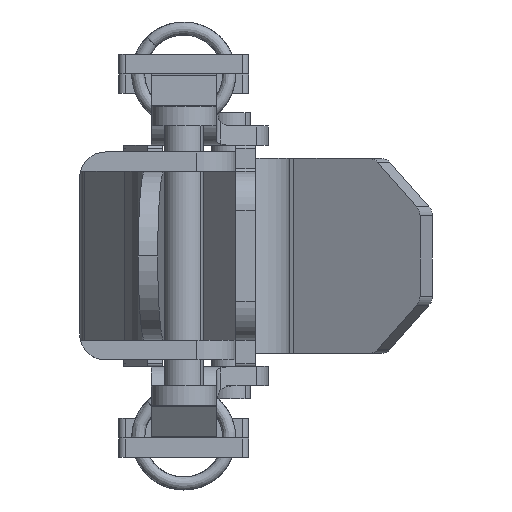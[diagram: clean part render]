
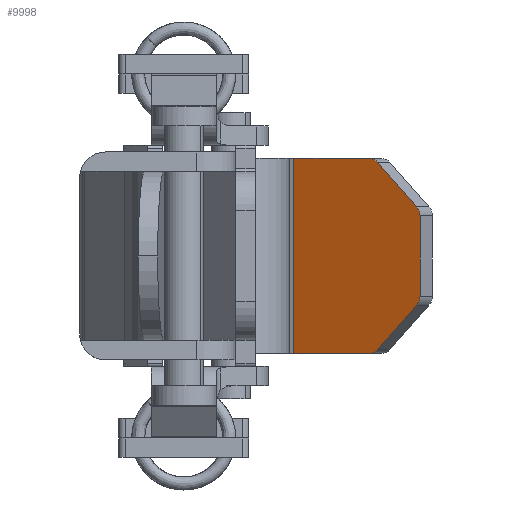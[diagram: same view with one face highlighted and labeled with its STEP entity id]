
A CAD part, left-side view. The second image highlights one B-rep face of the part: STEP entity #9998.
In plain terms, the highlighted planar face has unit normal (-0.882, 0.471, 0).
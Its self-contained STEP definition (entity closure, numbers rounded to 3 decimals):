
#60 = CARTESIAN_POINT ( 'NONE',  ( 27.735, -14.559, 4.414 ) ) ;
#171 = VERTEX_POINT ( 'NONE', #2004 ) ;
#793 = DIRECTION ( 'NONE',  ( -0.471, -0.882, 0. ) ) ;
#903 = ORIENTED_EDGE ( 'NONE', *, *, #2760, .T. ) ;
#1047 = CARTESIAN_POINT ( 'NONE',  ( 27.735, -14.559, 10.586 ) ) ;
#1204 = DIRECTION ( 'NONE',  ( 0.471, 0.882, 0. ) ) ;
#1339 = CARTESIAN_POINT ( 'NONE',  ( 32.912, -4.853, 15. ) ) ;
#1388 = DIRECTION ( 'NONE',  ( -0.882, 0.471, 0. ) ) ;
#1517 = VERTEX_POINT ( 'NONE', #2628 ) ;
#1912 = DIRECTION ( 'NONE',  ( 0.333, 0.624, 0.707 ) ) ;
#2004 = CARTESIAN_POINT ( 'NONE',  ( 27.873, -14.3, 3.707 ) ) ;
#2017 = CARTESIAN_POINT ( 'NONE',  ( 29.813, -10.664, 0. ) ) ;
#2281 = VERTEX_POINT ( 'NONE', #4116 ) ;
#2388 = ORIENTED_EDGE ( 'NONE', *, *, #2951, .T. ) ;
#2396 = DIRECTION ( 'NONE',  ( 0.471, 0.882, 0. ) ) ;
#2522 = EDGE_CURVE ( 'NONE', #4455, #11688, #8206, .T. ) ;
#2527 = VERTEX_POINT ( 'NONE', #1047 ) ;
#2628 = CARTESIAN_POINT ( 'NONE',  ( 29.48, -11.288, 0.293 ) ) ;
#2760 = EDGE_CURVE ( 'NONE', #8278, #4455, #8661, .T. ) ;
#2865 = LINE ( 'NONE', #7891, #5221 ) ;
#2933 = EDGE_CURVE ( 'NONE', #2527, #8278, #10038, .T. ) ;
#2951 = EDGE_CURVE ( 'NONE', #2281, #11033, #12058, .T. ) ;
#3979 = ORIENTED_EDGE ( 'NONE', *, *, #7849, .T. ) ;
#4116 = CARTESIAN_POINT ( 'NONE',  ( 32.912, -4.853, 15. ) ) ;
#4168 = VECTOR ( 'NONE', #10726, 1000. ) ;
#4411 = DIRECTION ( 'NONE',  ( -0.882, 0.471, 0. ) ) ;
#4455 = VERTEX_POINT ( 'NONE', #6157 ) ;
#4768 = CARTESIAN_POINT ( 'NONE',  ( 27.873, -14.3, 11.293 ) ) ;
#4782 = LINE ( 'NONE', #5690, #12409 ) ;
#5221 = VECTOR ( 'NONE', #8872, 1000. ) ;
#5341 = CARTESIAN_POINT ( 'NONE',  ( 31.265, -7.941, 18.5 ) ) ;
#5368 = ORIENTED_EDGE ( 'NONE', *, *, #12765, .T. ) ;
#5670 = ORIENTED_EDGE ( 'NONE', *, *, #12856, .F. ) ;
#5690 = CARTESIAN_POINT ( 'NONE',  ( 27.735, -14.559, 4. ) ) ;
#6050 = CARTESIAN_POINT ( 'NONE',  ( 32.912, -4.853, 0. ) ) ;
#6057 = CARTESIAN_POINT ( 'NONE',  ( 29.813, -10.664, 14. ) ) ;
#6103 = DIRECTION ( 'NONE',  ( -0.882, 0.471, 0. ) ) ;
#6137 = DIRECTION ( 'NONE',  ( -0.471, -0.882, 0. ) ) ;
#6157 = CARTESIAN_POINT ( 'NONE',  ( 29.48, -11.288, 14.707 ) ) ;
#6802 = DIRECTION ( 'NONE',  ( -0.882, 0.471, 0. ) ) ;
#6923 = ORIENTED_EDGE ( 'NONE', *, *, #2522, .T. ) ;
#7384 = CARTESIAN_POINT ( 'NONE',  ( 29.813, -10.664, 1. ) ) ;
#7388 = EDGE_LOOP ( 'NONE', ( #7693, #3979, #8704, #5368, #5670, #12266, #903, #6923, #7888, #2388 ) ) ;
#7561 = LINE ( 'NONE', #12356, #10188 ) ;
#7693 = ORIENTED_EDGE ( 'NONE', *, *, #7698, .F. ) ;
#7698 = EDGE_CURVE ( 'NONE', #10968, #11033, #12891, .T. ) ;
#7786 = DIRECTION ( 'NONE',  ( -0.882, 0.471, 0. ) ) ;
#7849 = EDGE_CURVE ( 'NONE', #10968, #1517, #11615, .T. ) ;
#7888 = ORIENTED_EDGE ( 'NONE', *, *, #11352, .T. ) ;
#7891 = CARTESIAN_POINT ( 'NONE',  ( 27.735, -14.559, 15. ) ) ;
#8041 = FACE_OUTER_BOUND ( 'NONE', #7388, .T. ) ;
#8206 = CIRCLE ( 'NONE', #9003, 1. ) ;
#8207 = CARTESIAN_POINT ( 'NONE',  ( 32.912, -4.853, 0. ) ) ;
#8224 = AXIS2_PLACEMENT_3D ( 'NONE', #7384, #1388, #8385 ) ;
#8278 = VERTEX_POINT ( 'NONE', #4768 ) ;
#8359 = VECTOR ( 'NONE', #1912, 1000. ) ;
#8385 = DIRECTION ( 'NONE',  ( -0.471, -0.882, 0. ) ) ;
#8661 = LINE ( 'NONE', #5341, #8359 ) ;
#8704 = ORIENTED_EDGE ( 'NONE', *, *, #10172, .T. ) ;
#8728 = CARTESIAN_POINT ( 'NONE',  ( 29.813, -10.664, 15. ) ) ;
#8872 = DIRECTION ( 'NONE',  ( 0., 0., -1. ) ) ;
#9003 = AXIS2_PLACEMENT_3D ( 'NONE', #6057, #6103, #6137 ) ;
#9781 = VERTEX_POINT ( 'NONE', #60 ) ;
#9998 = ADVANCED_FACE ( 'NONE', ( #8041 ), #10327, .T. ) ;
#10038 = CIRCLE ( 'NONE', #10766, 1. ) ;
#10172 = EDGE_CURVE ( 'NONE', #1517, #171, #4782, .T. ) ;
#10188 = VECTOR ( 'NONE', #2396, 1000. ) ;
#10327 = PLANE ( 'NONE',  #12320 ) ;
#10683 = CARTESIAN_POINT ( 'NONE',  ( 32.912, -4.853, 15. ) ) ;
#10726 = DIRECTION ( 'NONE',  ( 0., 0., -1. ) ) ;
#10766 = AXIS2_PLACEMENT_3D ( 'NONE', #10768, #7786, #10808 ) ;
#10768 = CARTESIAN_POINT ( 'NONE',  ( 28.206, -13.676, 10.586 ) ) ;
#10808 = DIRECTION ( 'NONE',  ( -0.471, -0.882, 0. ) ) ;
#10968 = VERTEX_POINT ( 'NONE', #2017 ) ;
#11033 = VERTEX_POINT ( 'NONE', #6050 ) ;
#11102 = CIRCLE ( 'NONE', #11201, 1. ) ;
#11201 = AXIS2_PLACEMENT_3D ( 'NONE', #12768, #6802, #793 ) ;
#11330 = DIRECTION ( 'NONE',  ( -0.471, -0.882, 0. ) ) ;
#11352 = EDGE_CURVE ( 'NONE', #11688, #2281, #7561, .T. ) ;
#11615 = CIRCLE ( 'NONE', #8224, 1. ) ;
#11621 = DIRECTION ( 'NONE',  ( -0.333, -0.624, 0.707 ) ) ;
#11688 = VERTEX_POINT ( 'NONE', #8728 ) ;
#12058 = LINE ( 'NONE', #10683, #4168 ) ;
#12266 = ORIENTED_EDGE ( 'NONE', *, *, #2933, .T. ) ;
#12320 = AXIS2_PLACEMENT_3D ( 'NONE', #1339, #4411, #11330 ) ;
#12356 = CARTESIAN_POINT ( 'NONE',  ( 32.912, -4.853, 15. ) ) ;
#12409 = VECTOR ( 'NONE', #11621, 1000. ) ;
#12580 = VECTOR ( 'NONE', #1204, 1000. ) ;
#12765 = EDGE_CURVE ( 'NONE', #171, #9781, #11102, .T. ) ;
#12768 = CARTESIAN_POINT ( 'NONE',  ( 28.206, -13.676, 4.414 ) ) ;
#12856 = EDGE_CURVE ( 'NONE', #2527, #9781, #2865, .T. ) ;
#12891 = LINE ( 'NONE', #8207, #12580 ) ;
